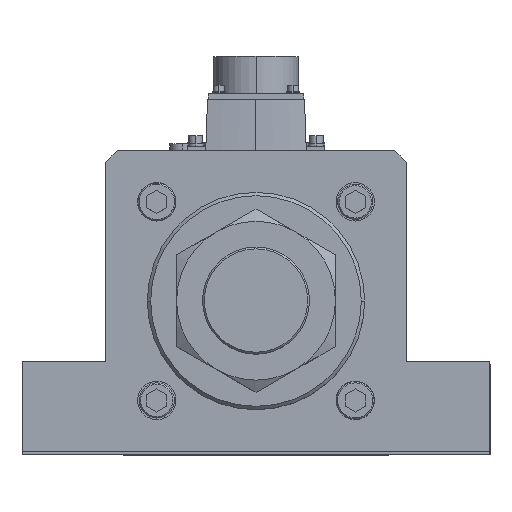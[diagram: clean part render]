
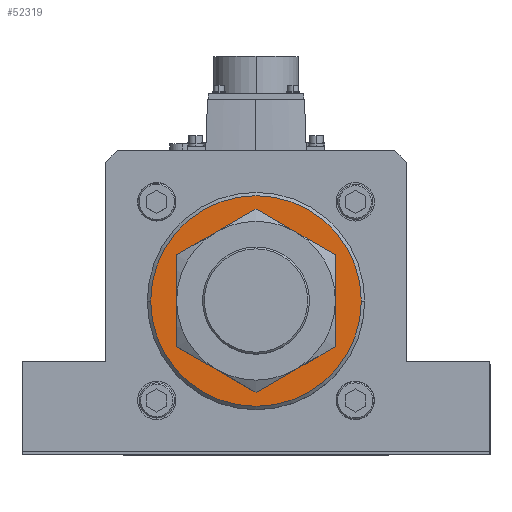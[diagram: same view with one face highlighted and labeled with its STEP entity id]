
A CAD part, top view. The second image highlights one B-rep face of the part: STEP entity #52319.
In plain terms, the highlighted planar face has unit normal (0, 0, 1).
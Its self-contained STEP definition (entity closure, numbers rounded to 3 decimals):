
#2668 = VERTEX_POINT ( 'NONE', #5275 ) ;
#3729 = PLANE ( 'NONE',  #54734 ) ;
#3911 = CARTESIAN_POINT ( 'NONE',  ( 0., 0., 962. ) ) ;
#4268 = DIRECTION ( 'NONE',  ( 1., 0., 0. ) ) ;
#4392 = DIRECTION ( 'NONE',  ( 1., 0., 0. ) ) ;
#5275 = CARTESIAN_POINT ( 'NONE',  ( -40.5, 0., 962. ) ) ;
#6116 = CIRCLE ( 'NONE', #22339, 63. ) ;
#6253 = EDGE_CURVE ( 'NONE', #26543, #43627, #32994, .T. ) ;
#8100 = DIRECTION ( 'NONE',  ( 0., 0., 1. ) ) ;
#8267 = CARTESIAN_POINT ( 'NONE',  ( 0., 0., 962. ) ) ;
#11825 = FACE_OUTER_BOUND ( 'NONE', #20265, .T. ) ;
#12393 = CARTESIAN_POINT ( 'NONE',  ( 0., 0., 962. ) ) ;
#12490 = FACE_BOUND ( 'NONE', #37094, .T. ) ;
#12707 = EDGE_CURVE ( 'NONE', #2668, #14043, #51538, .T. ) ;
#14043 = VERTEX_POINT ( 'NONE', #19998 ) ;
#16226 = EDGE_CURVE ( 'NONE', #43627, #26543, #6116, .T. ) ;
#17875 = AXIS2_PLACEMENT_3D ( 'NONE', #32698, #24517, #23970 ) ;
#19998 = CARTESIAN_POINT ( 'NONE',  ( 40.5, 0., 962. ) ) ;
#20265 = EDGE_LOOP ( 'NONE', ( #42264, #46131 ) ) ;
#22339 = AXIS2_PLACEMENT_3D ( 'NONE', #25880, #30407, #4392 ) ;
#23970 = DIRECTION ( 'NONE',  ( 1., 0., 0. ) ) ;
#24517 = DIRECTION ( 'NONE',  ( 0., 0., -1. ) ) ;
#25880 = CARTESIAN_POINT ( 'NONE',  ( 0., 0., 962. ) ) ;
#26543 = VERTEX_POINT ( 'NONE', #30617 ) ;
#30407 = DIRECTION ( 'NONE',  ( 0., 0., 1. ) ) ;
#30617 = CARTESIAN_POINT ( 'NONE',  ( -63., 0., 962. ) ) ;
#31705 = EDGE_CURVE ( 'NONE', #14043, #2668, #32178, .T. ) ;
#32178 = CIRCLE ( 'NONE', #17875, 40.5 ) ;
#32296 = ORIENTED_EDGE ( 'NONE', *, *, #31705, .T. ) ;
#32698 = CARTESIAN_POINT ( 'NONE',  ( 0., 0., 962. ) ) ;
#32994 = CIRCLE ( 'NONE', #55867, 63. ) ;
#36315 = ORIENTED_EDGE ( 'NONE', *, *, #12707, .T. ) ;
#37094 = EDGE_LOOP ( 'NONE', ( #32296, #36315 ) ) ;
#42264 = ORIENTED_EDGE ( 'NONE', *, *, #6253, .T. ) ;
#42846 = DIRECTION ( 'NONE',  ( 0., 0., -1. ) ) ;
#43627 = VERTEX_POINT ( 'NONE', #53413 ) ;
#46131 = ORIENTED_EDGE ( 'NONE', *, *, #16226, .T. ) ;
#50254 = AXIS2_PLACEMENT_3D ( 'NONE', #12393, #42846, #51584 ) ;
#51538 = CIRCLE ( 'NONE', #50254, 40.5 ) ;
#51584 = DIRECTION ( 'NONE',  ( 1., 0., 0. ) ) ;
#51841 = DIRECTION ( 'NONE',  ( 0., 0., 1. ) ) ;
#52319 = ADVANCED_FACE ( 'NONE', ( #12490, #11825 ), #3729, .T. ) ;
#53413 = CARTESIAN_POINT ( 'NONE',  ( 63., 0., 962. ) ) ;
#54734 = AXIS2_PLACEMENT_3D ( 'NONE', #3911, #8100, #56078 ) ;
#55867 = AXIS2_PLACEMENT_3D ( 'NONE', #8267, #51841, #4268 ) ;
#56078 = DIRECTION ( 'NONE',  ( 1., 0., 0. ) ) ;
